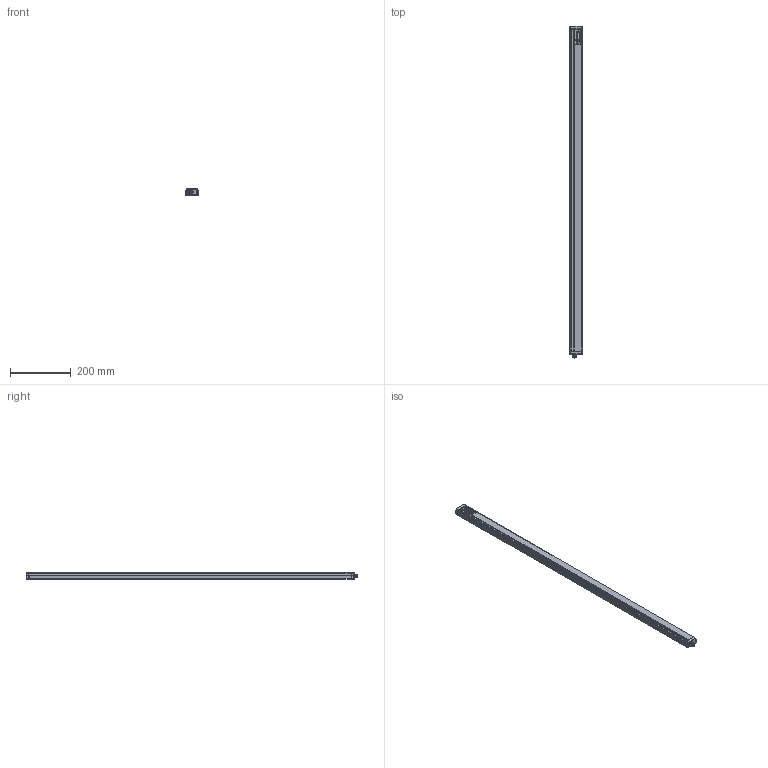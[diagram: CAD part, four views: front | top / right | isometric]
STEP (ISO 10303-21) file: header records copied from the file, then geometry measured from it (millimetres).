
FILE_DESCRIPTION(/* description */ (''),/* implementation_level */ '2;1');
FILE_NAME(/* name */ 'C:\Users\andre\SynologyDrive\Optoscan\Libreria Componenti\00 - Barriere\Polaris sorgente\Polaris_1060_TX.stp',/* time_stamp */ '2021-06-04T10:59:02+02:00',/* author */ ('andre'),/* organization */ (''),/* preprocessor_version */ 'ST-DEVELOPER v18',/* originating_system */ 'Autodesk Inventor 2020',/* authorisation */ '');
FILE_SCHEMA (('AUTOMOTIVE_DESIGN { 1 0 10303 214 3 1 1 }'));
Length unit declared in the file: millimetre
Products named in the file (1): Polaris_1060_TX
Bounding box: 40.5 x 1088.8 x 20.75 mm (x, y, z)
Volume: 216752.6 mm3; surface area: 283674.6 mm2
Topology: 1 solids, 1 shells, 743 faces, 2072 edges, 1332 vertices
Faces by surface type: plane 332, cylinder 208, bspline 115, torus 74, cone 8, sphere 6
Full cylindrical faces by diameter (mm): 1 x8, 2.459 x4, 2.5 x4, 3 x4, 3.5 x4, 5.5 x4, 8 x1, 10.5 x2, 11.75 x9, 12 x1, 12.3 x3, 14.5 x1, 16.7 x1, 17.5 x1
Entity records: 30714 total; most frequent: CARTESIAN_POINT 11308, ORIENTED_EDGE 4130, DIRECTION 3590, EDGE_CURVE 2065, VERTEX_POINT 1333, AXIS2_PLACEMENT_3D 1263, LINE 1064, VECTOR 1064
